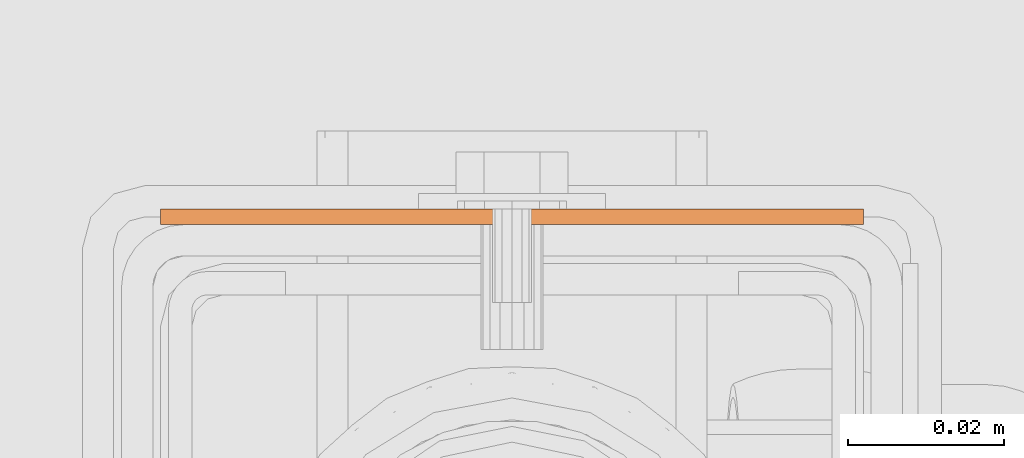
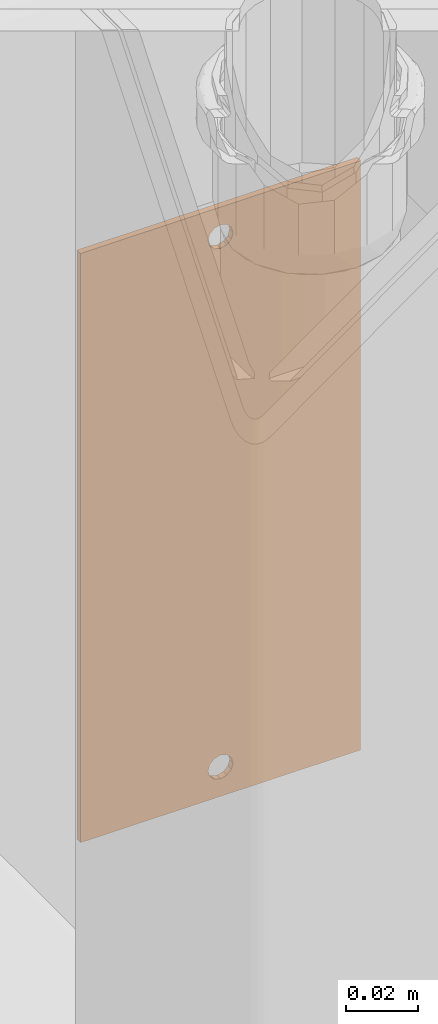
# One storey, part 88 of 162: 1 proxy.
"""IFC2X3 building model written with IfcOpenShell, lengths in millimetres."""

from ifc_helpers import new_model, entity, si_unit, converted_unit, origin_with_axes, place, context, project, spatial, faceted_brep, material, element, save


model = new_model("IFC2X3")

# Units and contexts
model_context = context("Model", 3, precision=1e-09, world=origin_with_axes())
ifc_project = project(units=[si_unit("LENGTHUNIT", "METRE", prefix="MILLI"), si_unit("AREAUNIT", "SQUARE_METRE"), si_unit("VOLUMEUNIT", "CUBIC_METRE"), converted_unit("PLANEANGLEUNIT", "DEGREE", entity("IfcPlaneAngleMeasure", 0.01745329), si_unit("PLANEANGLEUNIT", "RADIAN"), dimensions=[0, 0, 0, 0, 0, 0, 0])], contexts=[model_context])

# Site, building, storey
site_placement = place(None, origin_with_axes())
site = spatial("IfcSite", under=ifc_project, at=site_placement, Name="Hermannstra?e 1a, 60318 Frankfurt", CompositionType="ELEMENT")
building_placement = place(site_placement, origin_with_axes())
building = spatial("IfcBuilding", under=site, at=building_placement, Name="Struktur 1", CompositionType="ELEMENT")
storey_placement = place(building_placement, origin_with_axes())
storey = spatial("IfcBuildingStorey", under=building, at=storey_placement, Name="Default Storey", CompositionType="ELEMENT", Elevation=0.0)

# Proxy
ifc_material = material(Name="Kein")
proxy_placement = place(None, origin_with_axes())
element("IfcBuildingElementProxy", 1, at=proxy_placement, inside=storey, material=ifc_material, ObjectType="-", context=model_context, shape_type="Brep", body=[
    faceted_brep([(5469.30836482, 1582.609373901, 16997.0), (5469.30836482, 1580.609373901, 16997.0), (5469.844397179, 1580.609373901, 16994.9995), (5469.844397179, 1582.609373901, 16994.9995), (5471.30886482, 1580.609373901, 16993.535032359), (5471.30886482, 1582.609373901, 16993.535032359), (5469.844397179, 1582.609373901, 16999.0005), (5469.844397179, 1580.609373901, 16999.0005), (5471.30886482, 1582.609373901, 17000.464967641), (5471.30886482, 1580.609373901, 17000.464967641), (5428.30936482, 1580.609373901, 17187.0), (5428.30936482, 1580.609373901, 16987.0), (5518.30936482, 1580.609373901, 16987.0), (5518.30936482, 1580.609373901, 17187.0), (5471.30886482, 1580.609373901, 17173.535032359), (5469.844397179, 1580.609373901, 17174.9995), (5469.30836482, 1580.609373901, 17177.0), (5469.844397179, 1580.609373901, 17179.0005), (5471.30886482, 1580.609373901, 17180.464967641), (5473.30936482, 1580.609373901, 17181.001), (5475.30986482, 1580.609373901, 17180.464967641), (5476.77433246, 1580.609373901, 17179.0005), (5477.31036482, 1580.609373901, 17177.0), (5476.77433246, 1580.609373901, 17174.9995), (5475.30986482, 1580.609373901, 17173.535032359), (5473.30936482, 1580.609373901, 17172.999), (5473.30936482, 1580.609373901, 17001.001), (5475.30986482, 1580.609373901, 17000.464967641), (5476.77433246, 1580.609373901, 16999.0005), (5477.31036482, 1580.609373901, 16997.0), (5476.77433246, 1580.609373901, 16994.9995), (5475.30986482, 1580.609373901, 16993.535032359), (5473.30936482, 1580.609373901, 16992.999), (5469.844397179, 1582.609373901, 17174.9995), (5471.30886482, 1582.609373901, 17173.535032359), (5428.30936482, 1582.609373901, 17187.0), (5518.30936482, 1582.609373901, 17187.0), (5518.30936482, 1582.609373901, 16987.0), (5428.30936482, 1582.609373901, 16987.0), (5473.30936482, 1582.609373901, 16992.999), (5475.30986482, 1582.609373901, 16993.535032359), (5476.77433246, 1582.609373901, 16994.9995), (5477.31036482, 1582.609373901, 16997.0), (5476.77433246, 1582.609373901, 16999.0005), (5475.30986482, 1582.609373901, 17000.464967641), (5473.30936482, 1582.609373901, 17001.001), (5476.77433246, 1582.609373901, 17174.9995), (5477.31036482, 1582.609373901, 17177.0), (5476.77433246, 1582.609373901, 17179.0005), (5475.30986482, 1582.609373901, 17180.464967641), (5473.30936482, 1582.609373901, 17181.001), (5471.30886482, 1582.609373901, 17180.464967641), (5469.844397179, 1582.609373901, 17179.0005), (5469.30836482, 1582.609373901, 17177.0), (5473.30936482, 1582.609373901, 17172.999), (5475.30986482, 1582.609373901, 17173.535032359)], [[[0, 1, 2, 3]], [[3, 2, 4, 5]], [[1, 0, 6, 7]], [[7, 6, 8, 9]], [[10, 11, 12, 13], [14, 15, 16, 17, 18, 19, 20, 21, 22, 23, 24, 25], [1, 7, 9, 26, 27, 28, 29, 30, 31, 32, 4, 2]], [[33, 15, 14, 34]], [[35, 36, 37, 38], [0, 3, 5, 39, 40, 41, 42, 43, 44, 45, 8, 6], [46, 47, 48, 49, 50, 51, 52, 53, 33, 34, 54, 55]], [[15, 33, 53, 16]], [[5, 4, 32, 39]], [[9, 8, 45, 26]], [[16, 53, 52, 17]], [[39, 32, 31, 40]], [[34, 14, 25, 54]], [[17, 52, 51, 18]], [[11, 10, 35, 38]], [[40, 31, 30, 41]], [[26, 45, 44, 27]], [[18, 51, 50, 19]], [[38, 37, 12, 11]], [[41, 30, 29, 42]], [[28, 43, 42, 29]], [[27, 44, 43, 28]], [[54, 25, 24, 55]], [[10, 13, 36, 35]], [[13, 12, 37, 36]], [[19, 50, 49, 20]], [[55, 24, 23, 46]], [[20, 49, 48, 21]], [[46, 23, 22, 47]], [[21, 48, 47, 22]]]),
])

save(model, "model.ifc")
